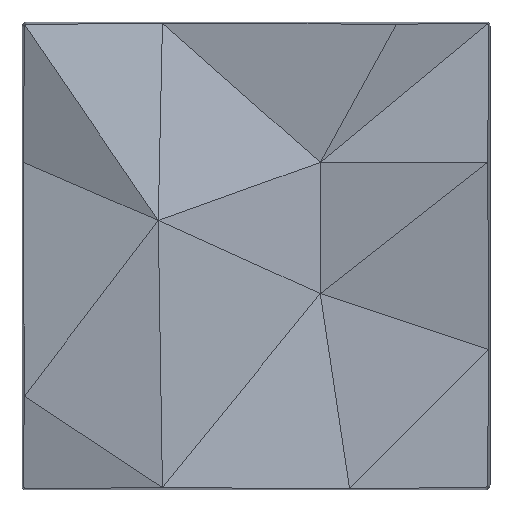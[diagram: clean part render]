
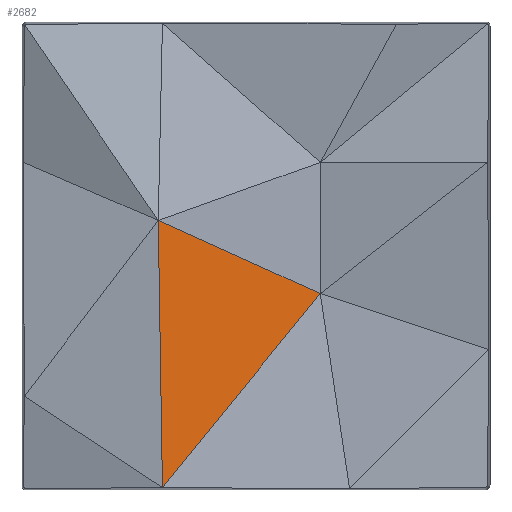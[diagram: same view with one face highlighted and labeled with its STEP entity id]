
A CAD part, top view. The second image highlights one B-rep face of the part: STEP entity #2682.
In plain terms, the highlighted planar face has unit normal (0.276, -0.063, 0.959).
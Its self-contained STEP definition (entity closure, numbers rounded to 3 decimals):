
#79 = VERTEX_POINT ( 'NONE', #228 ) ;
#85 = VERTEX_POINT ( 'NONE', #234 ) ;
#88 = VERTEX_POINT ( 'NONE', #237 ) ;
#228 = CARTESIAN_POINT ( 'NONE',  ( -100., -247.645, 44.938 ) ) ;
#234 = CARTESIAN_POINT ( 'NONE',  ( -104.479, 37.895, 65. ) ) ;
#237 = CARTESIAN_POINT ( 'NONE',  ( 68.646, -40.241, 10. ) ) ;
#810 = CARTESIAN_POINT ( 'NONE',  ( -100., -247.645, 44.938 ) ) ;
#811 = DIRECTION ( 'NONE',  ( -0.016, 0.997, 0.07 ) ) ;
#812 = CARTESIAN_POINT ( 'NONE',  ( 68.646, -40.241, 10. ) ) ;
#813 = DIRECTION ( 'NONE',  ( -0.626, -0.769, 0.13 ) ) ;
#824 = CARTESIAN_POINT ( 'NONE',  ( -104.479, 37.895, 65. ) ) ;
#825 = DIRECTION ( 'NONE',  ( 0.876, -0.395, -0.278 ) ) ;
#1305 = LINE ( 'NONE', #810, #1306 ) ;
#1306 = VECTOR ( 'NONE', #811, 1000. ) ;
#1307 = LINE ( 'NONE', #812, #1308 ) ;
#1308 = VECTOR ( 'NONE', #813, 1000. ) ;
#1319 = LINE ( 'NONE', #824, #1320 ) ;
#1320 = VECTOR ( 'NONE', #825, 1000. ) ;
#1868 = PLANE ( 'NONE',  #2644 ) ;
#1869 = CARTESIAN_POINT ( 'NONE',  ( -26.61, -357.53, 16.577 ) ) ;
#1871 = DIRECTION ( 'NONE',  ( 0.276, -0.063, 0.959 ) ) ;
#1872 = DIRECTION ( 'NONE',  ( 0.961, 0., -0.277 ) ) ;
#1949 = EDGE_LOOP ( 'NONE', ( #2099, #2098, #2097 ) ) ;
#2097 = ORIENTED_EDGE ( 'NONE', *, *, #2425, .F. ) ;
#2098 = ORIENTED_EDGE ( 'NONE', *, *, #2424, .F. ) ;
#2099 = ORIENTED_EDGE ( 'NONE', *, *, #2431, .F. ) ;
#2151 = FACE_OUTER_BOUND ( 'NONE', #1949, .T. ) ;
#2424 = EDGE_CURVE ( 'NONE', #79, #85, #1305, .T. ) ;
#2425 = EDGE_CURVE ( 'NONE', #88, #79, #1307, .T. ) ;
#2431 = EDGE_CURVE ( 'Edge34', #85, #88, #1319, .T. ) ;
#2644 = AXIS2_PLACEMENT_3D ( 'NONE', #1869, #1871, #1872 ) ;
#2682 = ADVANCED_FACE ( 'NONE', ( #2151 ), #1868, .T. ) ;
